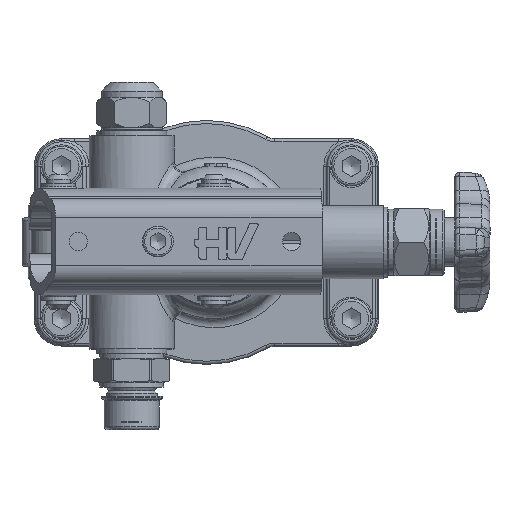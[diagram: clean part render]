
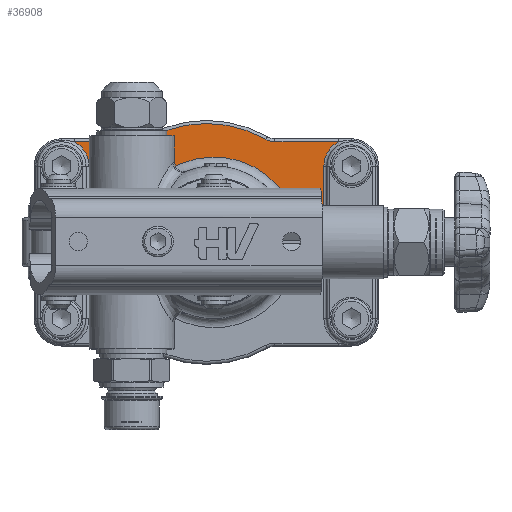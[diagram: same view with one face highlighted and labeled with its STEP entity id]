
A CAD part, top view. The second image highlights one B-rep face of the part: STEP entity #36908.
In plain terms, the highlighted planar face has unit normal (0, 0, 1).
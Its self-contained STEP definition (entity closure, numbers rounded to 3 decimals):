
#36457=CARTESIAN_POINT('',(13.123,67.,6.));
#36458=VERTEX_POINT('',#36457);
#36466=CARTESIAN_POINT('',(34.05,67.,6.));
#36467=VERTEX_POINT('',#36466);
#36468=CARTESIAN_POINT('',(13.123,67.,6.));
#36469=DIRECTION('',(1.0,0.0,0.0));
#36470=VECTOR('',#36469,20.927);
#36471=LINE('',#36468,#36470);
#36472=EDGE_CURVE('',#36458,#36467,#36471,.T.);
#36497=CARTESIAN_POINT('',(37.043,67.8,6.));
#36498=VERTEX_POINT('',#36497);
#36516=CARTESIAN_POINT('',(34.05,73.,6.));
#36517=DIRECTION('',(0.0,0.0,1.0));
#36518=DIRECTION('',(0.258,-0.966,0.0));
#36519=AXIS2_PLACEMENT_3D('',#36516,#36517,#36518);
#36520=CIRCLE('',#36519,6.);
#36521=EDGE_CURVE('',#36467,#36498,#36520,.T.);
#36531=CARTESIAN_POINT('',(75.957,67.8,6.));
#36532=VERTEX_POINT('',#36531);
#36550=CARTESIAN_POINT('',(56.5,34.0,6.));
#36551=DIRECTION('',(0.0,0.0,-1.0));
#36552=DIRECTION('',(0.0,1.0,0.0));
#36553=AXIS2_PLACEMENT_3D('',#36550,#36551,#36552);
#36554=CIRCLE('',#36553,39.0);
#36555=EDGE_CURVE('',#36498,#36532,#36554,.T.);
#36565=CARTESIAN_POINT('',(78.95,67.,6.));
#36566=VERTEX_POINT('',#36565);
#36582=CARTESIAN_POINT('',(78.95,73.,6.));
#36583=DIRECTION('',(0.0,0.0,1.0));
#36584=DIRECTION('',(-0.258,-0.966,0.0));
#36585=AXIS2_PLACEMENT_3D('',#36582,#36583,#36584);
#36586=CIRCLE('',#36585,6.);
#36587=EDGE_CURVE('',#36532,#36566,#36586,.T.);
#36597=CARTESIAN_POINT('',(99.877,67.,6.));
#36598=VERTEX_POINT('',#36597);
#36608=CARTESIAN_POINT('',(78.95,67.,6.));
#36609=DIRECTION('',(1.0,0.0,0.0));
#36610=VECTOR('',#36609,20.927);
#36611=LINE('',#36608,#36610);
#36612=EDGE_CURVE('',#36566,#36598,#36611,.T.);
#36801=CARTESIAN_POINT('',(95.,59.,6.));
#36802=VERTEX_POINT('',#36801);
#36803=CARTESIAN_POINT('',(104.,59.,6.));
#36804=DIRECTION('',(0.0,0.0,1.0));
#36805=DIRECTION('',(0.0,1.0,0.0));
#36806=AXIS2_PLACEMENT_3D('',#36803,#36804,#36805);
#36807=CIRCLE('',#36806,9.0);
#36808=EDGE_CURVE('',#36598,#36802,#36807,.T.);
#36830=CARTESIAN_POINT('',(56.5,34.,6.));
#36831=DIRECTION('',(0.0,0.0,1.0));
#36832=DIRECTION('',(1.0,0.0,0.0));
#36833=AXIS2_PLACEMENT_3D('',#36830,#36831,#36832);
#36834=PLANE('',#36833);
#36835=ORIENTED_EDGE('',*,*,#36612,.F.);
#36836=ORIENTED_EDGE('',*,*,#36587,.F.);
#36837=ORIENTED_EDGE('',*,*,#36555,.F.);
#36838=ORIENTED_EDGE('',*,*,#36521,.F.);
#36839=ORIENTED_EDGE('',*,*,#36472,.F.);
#36840=CARTESIAN_POINT('',(18.,59.0,6.));
#36841=VERTEX_POINT('',#36840);
#36842=CARTESIAN_POINT('',(9.,59.0,6.));
#36843=DIRECTION('',(0.0,0.0,1.0));
#36844=DIRECTION('',(0.0,1.0,0.0));
#36845=AXIS2_PLACEMENT_3D('',#36842,#36843,#36844);
#36846=CIRCLE('',#36845,9.0);
#36847=EDGE_CURVE('',#36841,#36458,#36846,.T.);
#36848=ORIENTED_EDGE('',*,*,#36847,.F.);
#36849=CARTESIAN_POINT('',(18.,45.,6.));
#36850=VERTEX_POINT('',#36849);
#36851=CARTESIAN_POINT('',(18.,45.,6.));
#36852=DIRECTION('',(0.0,1.0,0.0));
#36853=VECTOR('',#36852,14.);
#36854=LINE('',#36851,#36853);
#36855=EDGE_CURVE('',#36850,#36841,#36854,.T.);
#36856=ORIENTED_EDGE('',*,*,#36855,.F.);
#36857=CARTESIAN_POINT('',(23.,45.,6.));
#36858=VERTEX_POINT('',#36857);
#36859=CARTESIAN_POINT('',(23.,45.,6.));
#36860=DIRECTION('',(-1.0,0.0,0.0));
#36861=VECTOR('',#36860,5.);
#36862=LINE('',#36859,#36861);
#36863=EDGE_CURVE('',#36858,#36850,#36862,.T.);
#36864=ORIENTED_EDGE('',*,*,#36863,.F.);
#36865=CARTESIAN_POINT('',(23.,51.,6.));
#36866=VERTEX_POINT('',#36865);
#36867=CARTESIAN_POINT('',(23.,51.,6.));
#36868=DIRECTION('',(0.0,-1.0,0.0));
#36869=VECTOR('',#36868,6.);
#36870=LINE('',#36867,#36869);
#36871=EDGE_CURVE('',#36866,#36858,#36870,.T.);
#36872=ORIENTED_EDGE('',*,*,#36871,.F.);
#36873=CARTESIAN_POINT('',(40.187,54.738,6.));
#36874=VERTEX_POINT('',#36873);
#36875=CARTESIAN_POINT('',(32.,51.,6.));
#36876=DIRECTION('',(0.0,0.0,1.0));
#36877=DIRECTION('',(-0.91,-0.415,0.0));
#36878=AXIS2_PLACEMENT_3D('',#36875,#36876,#36877);
#36879=CIRCLE('',#36878,9.);
#36880=EDGE_CURVE('',#36874,#36866,#36879,.T.);
#36881=ORIENTED_EDGE('',*,*,#36880,.F.);
#36882=CARTESIAN_POINT('',(84.957,44.5,6.));
#36883=VERTEX_POINT('',#36882);
#36884=CARTESIAN_POINT('',(59.,34.0,6.));
#36885=DIRECTION('',(0.0,0.0,1.0));
#36886=DIRECTION('',(-0.009,-1.,0.0));
#36887=AXIS2_PLACEMENT_3D('',#36884,#36885,#36886);
#36888=CIRCLE('',#36887,28.);
#36889=EDGE_CURVE('',#36883,#36874,#36888,.T.);
#36890=ORIENTED_EDGE('',*,*,#36889,.F.);
#36891=CARTESIAN_POINT('',(95.,44.5,6.));
#36892=VERTEX_POINT('',#36891);
#36893=CARTESIAN_POINT('',(95.,44.5,6.));
#36894=DIRECTION('',(-1.0,0.0,0.0));
#36895=VECTOR('',#36894,10.043);
#36896=LINE('',#36893,#36895);
#36897=EDGE_CURVE('',#36892,#36883,#36896,.T.);
#36898=ORIENTED_EDGE('',*,*,#36897,.F.);
#36899=CARTESIAN_POINT('',(95.,59.,6.));
#36900=DIRECTION('',(0.0,-1.0,0.0));
#36901=VECTOR('',#36900,14.5);
#36902=LINE('',#36899,#36901);
#36903=EDGE_CURVE('',#36802,#36892,#36902,.T.);
#36904=ORIENTED_EDGE('',*,*,#36903,.F.);
#36905=ORIENTED_EDGE('',*,*,#36808,.F.);
#36906=EDGE_LOOP('',(#36835,#36836,#36837,#36838,#36839,#36848,#36856,#36864,#36872,#36881,#36890,#36898,#36904,#36905));
#36907=FACE_OUTER_BOUND('',#36906,.T.);
#36908=ADVANCED_FACE('',(#36907),#36834,.T.);
